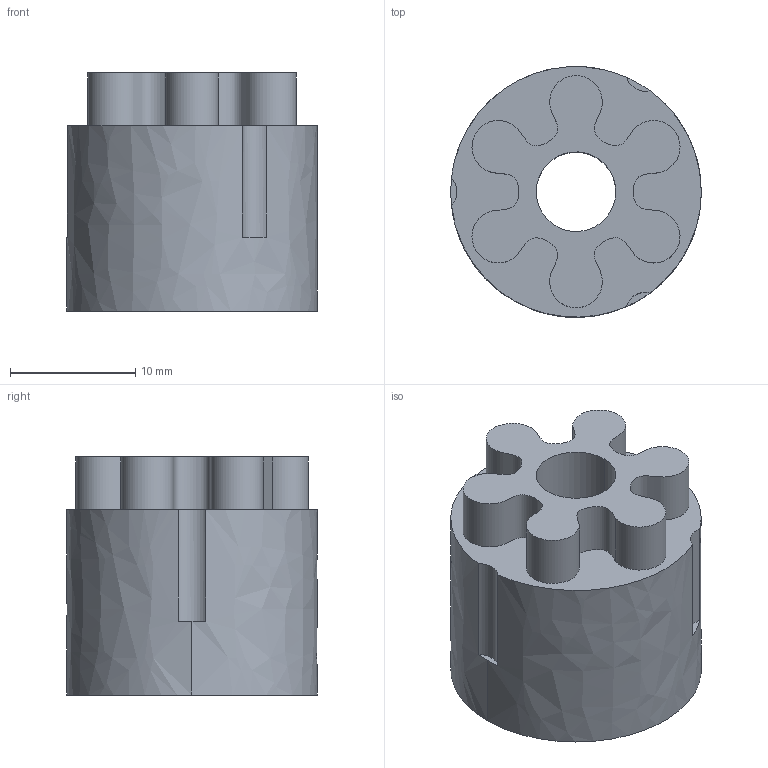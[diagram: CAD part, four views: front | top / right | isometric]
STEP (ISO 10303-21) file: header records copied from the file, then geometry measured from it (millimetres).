
FILE_DESCRIPTION(/* description */ (''),/* implementation_level */ '2;1');
FILE_NAME(/* name */ 'pinion',/* time_stamp */ '2017-10-27T11:40:59-04:00',/* author */ (''),/* organization */ (''),/* preprocessor_version */ 'ST-DEVELOPER v15',/* originating_system */ '',/* authorisation */ '');
FILE_SCHEMA (('AUTOMOTIVE_DESIGN'));
Length unit declared in the file: millimetre
Products named in the file (1): Document
Bounding box: 20 x 20 x 19 mm (x, y, z)
Volume: 4745.5 mm3; surface area: 2233.3 mm2
Topology: 1 solids, 1 shells, 15 faces, 36 edges, 24 vertices
Faces by surface type: bspline 9, plane 6
Entity records: 1312 total; most frequent: CARTESIAN_POINT 1086, ORIENTED_EDGE 72, EDGE_CURVE 36, VERTEX_POINT 24, EDGE_LOOP 18, ADVANCED_FACE 15, FACE_OUTER_BOUND 15, DIRECTION 10
